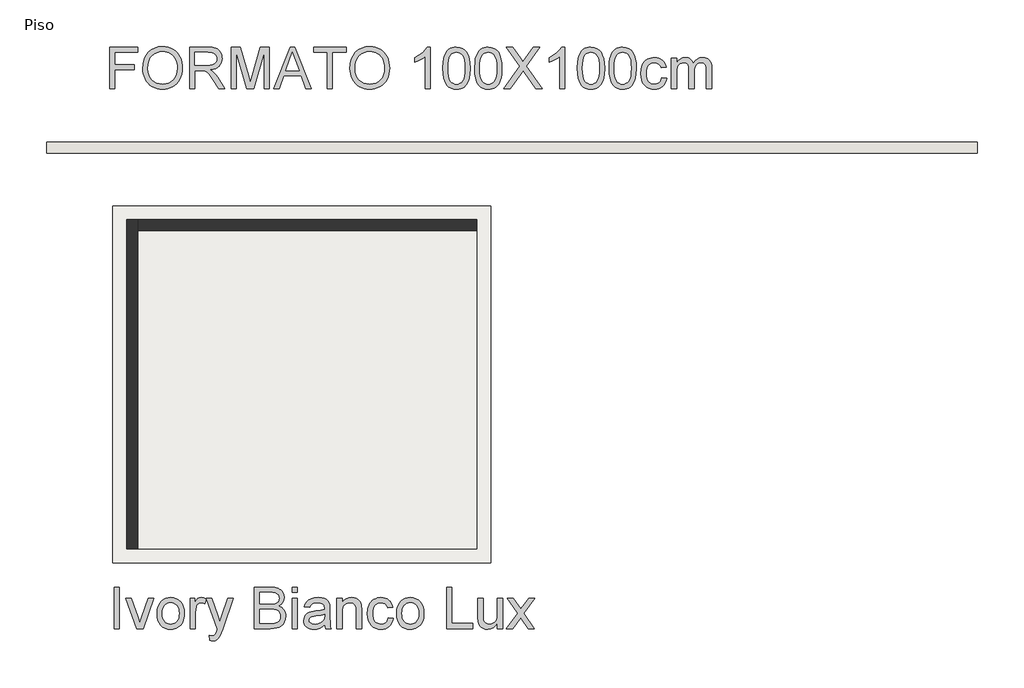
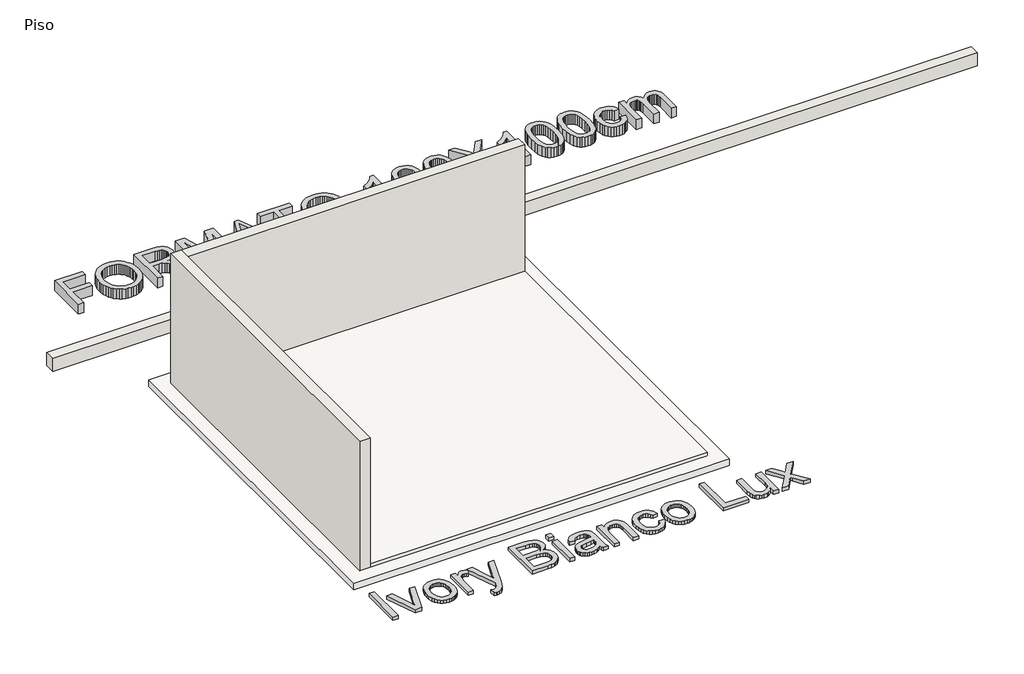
# One storey: 3 walls, 2 proxies, 2 slabs.
"""IFC4 building model written with IfcOpenShell, lengths in millimetres."""

from ifc_helpers import new_model, si_unit, frame, origin, origin_with_axes, place, context, project, spatial, polyline, outline, extrude, faceted_brep, element, save

model = new_model("IFC4")

# Units and contexts
model_context = context("Model", 3, world=origin())
ifc_project = project(units=[si_unit("LENGTHUNIT", "METRE", prefix="MILLI")], contexts=[model_context])

# Site, building, storey
site = spatial("IfcSite", under=ifc_project)
building = spatial("IfcBuilding", under=site)
storey = spatial("IfcBuildingStorey", under=building, Name="Piso", Elevation=0.0)

# Proxies
placement = place(None, origin())
element("IfcBuildingElementProxy", 1, Name="600mm Arial", ObjectType="600mm Arial", at=placement, inside=storey, context=model_context, shape_type="SweptSolid", body=[
    extrude(outline(polyline([(92602.0859381, 2702.6380465), (92602.0859381, 3305.3759074), (93007.0504384, 3305.3759074), (93007.0504384, 3230.0336748), (92677.4281707, 3230.0336748), (92677.4281707, 3051.0958724), (92959.961543, 3051.0958724), (92959.961543, 2975.7536397), (92677.4281707, 2975.7536397), (92677.4281707, 2702.6380465), (92602.0859381, 2702.6380465)])), origin_with_axes(), (0.0, 0.0, 1.0), 150.0),
    extrude(outline(polyline([(93082.392671, 2996.0607259), (93087.4142602, 3066.7584483), (93102.4790279, 3129.3443727), (93127.5869741, 3183.8184992), (93143.9071391, 3208.0136381), (93162.7380987, 3230.1808276), (93205.8262774, 3267.1989534), (93254.7453857, 3293.6404718), (93309.4954237, 3309.5053828), (93370.0763912, 3314.7936865), (93410.6261841, 3312.310483), (93449.134232, 3304.8608726), (93485.6005348, 3292.4448553), (93520.0250925, 3275.062431), (93551.4422148, 3253.2378317), (93578.8862117, 3227.495289), (93602.357083, 3197.8348032), (93621.8548287, 3164.2563741), (93637.1771138, 3127.5233569), (93648.1216032, 3088.3991067), (93654.6882968, 3046.8836235), (93656.8771947, 3002.9769074), (93654.5733337, 2958.4907771), (93647.6617507, 2916.4142739), (93636.1424457, 2876.7473978), (93620.0154187, 2839.4901487), (93599.6623474, 2805.6266111), (93575.4649091, 2776.1408692), (93547.423104, 2751.032923), (93515.5369321, 2730.3027726), (93481.0617906, 2714.0791766), (93445.2530769, 2702.4908937), (93408.110791, 2695.537924), (93369.6349328, 2693.2202674), (93328.3769671, 2695.7816458), (93289.3630815, 2703.465781), (93252.5932761, 2716.272673), (93218.0675508, 2734.2023217), (93186.6872166, 2756.56035), (93159.3535844, 2782.6523805), (93136.0666541, 2812.4784132), (93116.8264257, 2846.0384482), (93101.761658, 2881.9851177), (93091.0011097, 2918.9710538), (93084.5447807, 2956.9962565), (93082.392671, 2996.0607259)]), holes=[polyline([(93157.7349036, 2995.3249619), (93161.5010955, 2945.375784), (93172.7996713, 2901.0368065), (93191.6306309, 2862.3080295), (93217.9939744, 2829.1894529), (93250.0410947, 2802.665161), (93285.9233848, 2783.7192383), (93325.6408447, 2772.3516846), (93369.1934744, 2768.5625001), (93413.4910652, 2772.3884728), (93453.6775746, 2783.8663911), (93489.7530028, 2802.9962548), (93521.7173496, 2829.7780641), (93547.8875551, 2863.5956165), (93566.5805589, 2903.8327097), (93577.7963613, 2950.4893437), (93581.5349621, 3003.5655186), (93579.9346754, 3038.0452586), (93575.1338153, 3070.2625243), (93567.1323819, 3100.2173158), (93555.9303752, 3127.9096329), (93541.6519553, 3152.9761924), (93524.4212823, 3175.0537106), (93504.2383563, 3194.1421877), (93481.1031774, 3210.2416235), (93455.7331153, 3223.0209243), (93428.84554, 3232.1489963), (93400.4404514, 3237.6258395), (93370.5178496, 3239.4514539), (93328.4781346, 3235.9335823), (93289.4734461, 3225.3799676), (93253.503784, 3207.7906097), (93220.5691484, 3183.1655086), (93193.0791663, 3150.318245), (93173.4434648, 3108.0623993), (93161.6620439, 3056.3979716), (93157.7349036, 2995.3249619)])]), origin_with_axes(), (0.0, 0.0, 1.0), 150.0),
    extrude(outline(polyline([(93760.4727645, 2702.6380465), (93760.4727645, 3305.3759074), (94020.1974531, 3305.3759074), (94090.0030617, 3301.3108114), (94140.7891711, 3289.1155232), (94160.3880844, 3279.4218327), (94177.9084644, 3266.6011451), (94193.3503112, 3250.6534606), (94206.7136247, 3231.5787792), (94217.4971656, 3210.4025718), (94225.1996949, 3188.1503097), (94229.8212125, 3164.8219926), (94231.3617183, 3140.4176208), (94228.809537, 3109.4603509), (94221.152993, 3081.0414668), (94208.3920863, 3055.1609684), (94190.5268169, 3031.8188558), (94167.3272585, 3011.76009), (94138.563485, 2995.7296321), (94104.2354964, 2983.727482), (94064.3432925, 2975.7536397), (94089.1753272, 2959.5300438), (94107.1647568, 2943.527177), (94138.0300562, 2906.9229184), (94168.233168, 2865.9776524), (94268.738529, 2702.6380465), (94181.1826142, 2702.6380465), (94102.7501728, 2827.5707721), (94046.0963456, 2910.2706446), (94025.0351013, 2934.3853094), (94006.2915137, 2949.3397125), (93970.4598074, 2963.6871103), (93926.7554263, 2966.3358607), (93835.8149971, 2966.3358607), (93835.8149971, 2702.6380465), (93760.4727645, 2702.6380465)]), holes=[polyline([(93835.8149971, 3041.6780933), (94004.4521037, 3041.6780933), (94052.8837684, 3044.3452377), (94090.4629142, 3052.3466711), (94118.7530396, 3066.2158224), (94139.3176431, 3086.4861203), (94151.8440251, 3111.0054553), (94156.0194857, 3137.6217176), (94154.0283244, 3156.8895371), (94148.0548405, 3174.3731289), (94138.099034, 3190.0724931), (94124.1609049, 3203.9876296), (94105.9185565, 3215.3827744), (94083.050092, 3223.5221635), (94055.5555114, 3228.405797), (94023.4348147, 3230.0336748), (93835.8149971, 3230.0336748), (93835.8149971, 3041.6780933)])]), origin_with_axes(), (0.0, 0.0, 1.0), 150.0),
    extrude(outline(polyline([(94363.2106254, 2702.6380465), (94363.2106254, 3305.3759074), (94492.8522405, 3305.3759074), (94616.1662853, 2880.5457794), (94641.0351082, 2791.8126422), (94667.9640702, 2887.9034193), (94789.2179758, 3305.3759074), (94918.8595909, 3305.3759074), (94918.8595909, 2702.6380465), (94843.5173583, 2702.6380465), (94843.5173583, 3230.0336748), (94692.0971291, 2702.6380465), (94589.9730872, 2702.6380465), (94438.552858, 3230.0336748), (94438.552858, 2702.6380465), (94363.2106254, 2702.6380465)])), origin_with_axes(), (0.0, 0.0, 1.0), 150.0),
    extrude(outline(polyline([(94980.5166133, 2702.6380465), (95221.1114382, 3305.3759074), (95285.2700581, 3305.3759074), (95525.864883, 2702.6380465), (95446.2552192, 2702.6380465), (95377.2405569, 2890.9936281), (95128.9937866, 2890.9936281), (95060.1262771, 2702.6380465), (94980.5166133, 2702.6380465)]), holes=[polyline([(95156.6585126, 2966.3358607), (95349.7229837, 2966.3358607), (95295.4236012, 3114.5187283), (95253.1907481, 3230.0336748), (95215.6667846, 3127.4681746), (95156.6585126, 2966.3358607)])]), origin_with_axes(), (0.0, 0.0, 1.0), 150.0),
    extrude(outline(polyline([(95757.0419287, 2702.6380465), (95757.0419287, 3230.0336748), (95559.2685681, 3230.0336748), (95559.2685681, 3305.3759074), (96030.1575219, 3305.3759074), (96030.1575219, 3230.0336748), (95832.3841613, 3230.0336748), (95832.3841613, 2702.6380465), (95757.0419287, 2702.6380465)])), origin_with_axes(), (0.0, 0.0, 1.0), 150.0),
    extrude(outline(polyline([(96086.6641964, 2996.0607259), (96091.6857856, 3066.7584483), (96106.7505533, 3129.3443727), (96131.8584995, 3183.8184992), (96148.1786645, 3208.0136381), (96167.0096242, 3230.1808276), (96210.0978028, 3267.1989534), (96259.0169111, 3293.6404718), (96313.7669491, 3309.5053828), (96374.3479166, 3314.7936865), (96414.8977096, 3312.310483), (96453.4057574, 3304.8608726), (96489.8720602, 3292.4448553), (96524.2966179, 3275.062431), (96555.7137403, 3253.2378317), (96583.1577371, 3227.495289), (96606.6286084, 3197.8348032), (96626.1263541, 3164.2563741), (96641.4486392, 3127.5233569), (96652.3931286, 3088.3991067), (96658.9598222, 3046.8836235), (96661.1487201, 3002.9769074), (96658.8448591, 2958.4907771), (96651.9332761, 2916.4142739), (96640.4139711, 2876.7473978), (96624.2869442, 2839.4901487), (96603.9338728, 2805.6266111), (96579.7364345, 2776.1408692), (96551.6946295, 2751.032923), (96519.8084575, 2730.3027726), (96485.3333161, 2714.0791766), (96449.5246024, 2702.4908937), (96412.3823164, 2695.537924), (96373.9064582, 2693.2202674), (96332.6484925, 2695.7816458), (96293.6346069, 2703.465781), (96256.8648015, 2716.272673), (96222.3390762, 2734.2023217), (96190.958742, 2756.56035), (96163.6251098, 2782.6523805), (96140.3381795, 2812.4784132), (96121.0979512, 2846.0384482), (96106.0331835, 2881.9851177), (96095.2726351, 2918.9710538), (96088.8163061, 2956.9962565), (96086.6641964, 2996.0607259)]), holes=[polyline([(96162.006429, 2995.3249619), (96165.7726209, 2945.375784), (96177.0711967, 2901.0368065), (96195.9021564, 2862.3080295), (96222.2654998, 2829.1894529), (96254.3126201, 2802.665161), (96290.1949102, 2783.7192383), (96329.9123701, 2772.3516846), (96373.4649998, 2768.5625001), (96417.7625906, 2772.3884728), (96457.9491, 2783.8663911), (96494.0245282, 2802.9962548), (96525.988875, 2829.7780641), (96552.1590805, 2863.5956165), (96570.8520844, 2903.8327097), (96582.0678867, 2950.4893437), (96585.8064875, 3003.5655186), (96584.2062008, 3038.0452586), (96579.4053407, 3070.2625243), (96571.4039074, 3100.2173158), (96560.2019006, 3127.9096329), (96545.9234807, 3152.9761924), (96528.6928077, 3175.0537106), (96508.5098818, 3194.1421877), (96485.3747028, 3210.2416235), (96460.0046407, 3223.0209243), (96433.1170654, 3232.1489963), (96404.7119768, 3237.6258395), (96374.789375, 3239.4514539), (96332.74966, 3235.9335823), (96293.7449715, 3225.3799676), (96257.7753094, 3207.7906097), (96224.8406738, 3183.1655086), (96197.3506917, 3150.318245), (96177.7149902, 3108.0623993), (96165.9335693, 3056.3979716), (96162.006429, 2995.3249619)])]), origin_with_axes(), (0.0, 0.0, 1.0), 150.0),
    extrude(outline(polyline([(97254.4688019, 2702.6380465), (97179.1265693, 2702.6380465), (97179.1265693, 3172.349778), (97147.6726587, 3146.910738), (97107.7574622, 3121.5084862), (97065.855703, 3099.3068078), (97028.4421041, 3083.4694879), (97028.4421041, 3154.6914422), (97087.615923, 3186.8811168), (97138.880279, 3225.1776325), (97179.2921162, 3265.9021693), (97205.9083785, 3305.3759074), (97254.4688019, 3305.3759074), (97254.4688019, 2702.6380465)])), origin_with_axes(), (0.0, 0.0, 1.0), 150.0),
    extrude(outline(polyline([(97433.4066044, 2999.1509346), (97438.9432284, 3095.6279879), (97445.8640084, 3136.5410643), (97455.5531005, 3172.5705072), (97467.9691178, 3204.0106222), (97483.0706737, 3231.1557149), (97500.8577682, 3254.0057853), (97521.3304012, 3272.5608335), (97544.5575507, 3286.9174283), (97570.6081945, 3297.1721389), (97599.4823325, 3303.3249653), (97631.179965, 3305.3759074), (97677.6066727, 3300.5198651), (97719.1773382, 3285.9517381), (97753.9421867, 3262.2417435), (97779.9514438, 3229.9600984), (97799.5963424, 3189.3827143), (97815.2681153, 3140.7855028), (97825.532023, 3079.0732981), (97828.9533256, 2999.1509346), (97823.4718838, 2903.2257044), (97816.6200817, 2862.4505838), (97807.0275587, 2826.4671261), (97794.7081103, 2795.0132155), (97779.6755323, 2767.8267361), (97761.9298246, 2744.9076878), (97741.4709871, 2726.2560706), (97718.2162465, 2711.8029067), (97692.0828293, 2701.4792182), (97663.0707354, 2695.2850051), (97631.179965, 2693.2202674), (97589.6828759, 2696.8071169), (97552.8946764, 2707.5676653), (97520.8153664, 2725.5019125), (97493.444946, 2750.6098587), (97467.1781715, 2795.9972999), (97448.4161898, 2852.5499596), (97437.1590007, 2920.2678378), (97433.4066044, 2999.1509346)]), holes=[polyline([(97508.748837, 2999.2980874), (97510.9561289, 2933.8012967), (97517.5780048, 2880.7849027), (97528.6144647, 2840.2489053), (97544.0655085, 2812.1933047), (97562.7539139, 2793.1048277), (97583.5024584, 2779.4702012), (97606.3111421, 2771.2894254), (97631.179965, 2768.5625001), (97656.0487878, 2771.2986224), (97678.8574715, 2779.5069894), (97699.6060161, 2793.1876011), (97718.2944214, 2812.3404575), (97733.7454652, 2840.4420434), (97744.7819251, 2880.9688437), (97751.403801, 2933.9208584), (97753.611093, 2999.2980874), (97751.4773774, 3063.0612342), (97745.0762307, 3115.1441277), (97734.4076528, 3155.5467678), (97719.4716438, 3184.2691546), (97701.0959381, 3204.2911322), (97680.1082703, 3218.5925448), (97656.5086403, 3227.1733923), (97630.2970482, 3230.0336748), (97605.556984, 3227.5136831), (97583.1345764, 3219.9537081), (97563.0298254, 3207.3537498), (97545.2427309, 3189.7138081), (97529.2766523, 3158.4438385), (97517.8723104, 3116.2845619), (97511.0297053, 3063.2359782), (97508.748837, 2999.2980874)])]), origin_with_axes(), (0.0, 0.0, 1.0), 150.0),
    extrude(outline(polyline([(97894.8777791, 2999.1509346), (97900.4144031, 3095.6279879), (97907.3351832, 3136.5410643), (97917.0242752, 3172.5705072), (97929.4402925, 3204.0106222), (97944.5418484, 3231.1557149), (97962.3289429, 3254.0057853), (97982.8015759, 3272.5608335), (98006.0287254, 3286.9174283), (98032.0793692, 3297.1721389), (98060.9535073, 3303.3249653), (98092.6511397, 3305.3759074), (98139.0778475, 3300.5198651), (98180.648513, 3285.9517381), (98215.4133615, 3262.2417435), (98241.4226186, 3229.9600984), (98261.0675171, 3189.3827143), (98276.7392901, 3140.7855028), (98287.0031978, 3079.0732981), (98290.4245003, 2999.1509346), (98284.9430586, 2903.2257044), (98278.0912564, 2862.4505838), (98268.4987334, 2826.4671261), (98256.1792851, 2795.0132155), (98241.1467071, 2767.8267361), (98223.4009993, 2744.9076878), (98202.9421619, 2726.2560706), (98179.6874212, 2711.8029067), (98153.554004, 2701.4792182), (98124.5419102, 2695.2850051), (98092.6511397, 2693.2202674), (98051.1540507, 2696.8071169), (98014.3658511, 2707.5676653), (97982.2865412, 2725.5019125), (97954.9161207, 2750.6098587), (97928.6493463, 2795.9972999), (97909.8873645, 2852.5499596), (97898.6301755, 2920.2678378), (97894.8777791, 2999.1509346)]), holes=[polyline([(97970.2200117, 2999.2980874), (97972.4273037, 2933.8012967), (97979.0491796, 2880.7849027), (97990.0856395, 2840.2489053), (98005.5366833, 2812.1933047), (98024.2250886, 2793.1048277), (98044.9736331, 2779.4702012), (98067.7823168, 2771.2894254), (98092.6511397, 2768.5625001), (98117.5199626, 2771.2986224), (98140.3286463, 2779.5069894), (98161.0771908, 2793.1876011), (98179.7655962, 2812.3404575), (98195.21664, 2840.4420434), (98206.2530998, 2880.9688437), (98212.8749757, 2933.9208584), (98215.0822677, 2999.2980874), (98212.9485521, 3063.0612342), (98206.5474054, 3115.1441277), (98195.8788276, 3155.5467678), (98180.9428186, 3184.2691546), (98162.5671129, 3204.2911322), (98141.5794451, 3218.5925448), (98117.9798151, 3227.1733923), (98091.7682229, 3230.0336748), (98067.0281587, 3227.5136831), (98044.6057511, 3219.9537081), (98024.5010001, 3207.3537498), (98006.7139056, 3189.7138081), (97990.747827, 3158.4438385), (97979.3434852, 3116.2845619), (97972.5008801, 3063.2359782), (97970.2200117, 2999.2980874)])]), origin_with_axes(), (0.0, 0.0, 1.0), 150.0),
    extrude(outline(polyline([(98318.6778375, 2702.6380465), (98551.0321057, 3031.0830918), (98356.3489539, 3305.3759074), (98446.7007719, 3305.3759074), (98556.3296064, 3151.0126222), (98582.4860163, 3111.9067662), (98593.2649587, 3090.8271278), (98636.5278814, 3152.0426918), (98744.9794936, 3305.3759074), (98836.6556868, 3305.3759074), (98641.9725349, 3030.200175), (98874.3268031, 2702.6380465), (98783.974985, 2702.6380465), (98629.1702415, 2921.0127989), (98596.9437787, 2966.3358607), (98561.4799544, 2916.5982149), (98410.3540307, 2702.6380465), (98318.6778375, 2702.6380465)])), origin_with_axes(), (0.0, 0.0, 1.0), 150.0),
    extrude(outline(polyline([(99203.9490707, 2702.6380465), (99128.6068381, 2702.6380465), (99128.6068381, 3172.349778), (99097.1529275, 3146.910738), (99057.2377311, 3121.5084862), (99015.3359718, 3099.3068078), (98977.9223729, 3083.4694879), (98977.9223729, 3154.6914422), (99037.0961918, 3186.8811168), (99088.3605479, 3225.1776325), (99128.772385, 3265.9021693), (99155.3886474, 3305.3759074), (99203.9490707, 3305.3759074), (99203.9490707, 2702.6380465)])), origin_with_axes(), (0.0, 0.0, 1.0), 150.0),
    extrude(outline(polyline([(99382.8868732, 2999.1509346), (99388.4234972, 3095.6279879), (99395.3442773, 3136.5410643), (99405.0333693, 3172.5705072), (99417.4493866, 3204.0106222), (99432.5509425, 3231.1557149), (99450.338037, 3254.0057853), (99470.81067, 3272.5608335), (99494.0378195, 3286.9174283), (99520.0884633, 3297.1721389), (99548.9626014, 3303.3249653), (99580.6602338, 3305.3759074), (99627.0869416, 3300.5198651), (99668.657607, 3285.9517381), (99703.4224556, 3262.2417435), (99729.4317126, 3229.9600984), (99749.0766112, 3189.3827143), (99764.7483842, 3140.7855028), (99775.0122919, 3079.0732981), (99778.4335944, 2999.1509346), (99772.9521527, 2903.2257044), (99766.1003505, 2862.4505838), (99756.5078275, 2826.4671261), (99744.1883792, 2795.0132155), (99729.1558012, 2767.8267361), (99711.4100934, 2744.9076878), (99690.951256, 2726.2560706), (99667.6965153, 2711.8029067), (99641.5630981, 2701.4792182), (99612.5510043, 2695.2850051), (99580.6602338, 2693.2202674), (99539.1631447, 2696.8071169), (99502.3749452, 2707.5676653), (99470.2956352, 2725.5019125), (99442.9252148, 2750.6098587), (99416.6584403, 2795.9972999), (99397.8964586, 2852.5499596), (99386.6392695, 2920.2678378), (99382.8868732, 2999.1509346)]), holes=[polyline([(99458.2291058, 2999.2980874), (99460.4363978, 2933.8012967), (99467.0582737, 2880.7849027), (99478.0947335, 2840.2489053), (99493.5457773, 2812.1933047), (99512.2341827, 2793.1048277), (99532.9827272, 2779.4702012), (99555.7914109, 2771.2894254), (99580.6602338, 2768.5625001), (99605.5290567, 2771.2986224), (99628.3377404, 2779.5069894), (99649.0862849, 2793.1876011), (99667.7746903, 2812.3404575), (99683.2257341, 2840.4420434), (99694.2621939, 2880.9688437), (99700.8840698, 2933.9208584), (99703.0913618, 2999.2980874), (99700.9576462, 3063.0612342), (99694.5564995, 3115.1441277), (99683.8879216, 3155.5467678), (99668.9519126, 3184.2691546), (99650.576207, 3204.2911322), (99629.5885392, 3218.5925448), (99605.9889092, 3227.1733923), (99579.777317, 3230.0336748), (99555.0372528, 3227.5136831), (99532.6148452, 3219.9537081), (99512.5100942, 3207.3537498), (99494.7229997, 3189.7138081), (99478.7569211, 3158.4438385), (99467.3525793, 3116.2845619), (99460.5099742, 3063.2359782), (99458.2291058, 2999.2980874)])]), origin_with_axes(), (0.0, 0.0, 1.0), 150.0),
    extrude(outline(polyline([(99844.3580479, 2999.1509346), (99849.894672, 3095.6279879), (99856.815452, 3136.5410643), (99866.5045441, 3172.5705072), (99878.9205614, 3204.0106222), (99894.0221173, 3231.1557149), (99911.8092118, 3254.0057853), (99932.2818448, 3272.5608335), (99955.5089943, 3286.9174283), (99981.559638, 3297.1721389), (100010.4337761, 3303.3249653), (100042.1314085, 3305.3759074), (100088.5581163, 3300.5198651), (100130.1287818, 3285.9517381), (100164.8936303, 3262.2417435), (100190.9028874, 3229.9600984), (100210.5477859, 3189.3827143), (100226.2195589, 3140.7855028), (100236.4834666, 3079.0732981), (100239.9047692, 2999.1509346), (100234.4233274, 2903.2257044), (100227.5715253, 2862.4505838), (100217.9790022, 2826.4671261), (100205.6595539, 2795.0132155), (100190.6269759, 2767.8267361), (100172.8812682, 2744.9076878), (100152.4224307, 2726.2560706), (100129.1676901, 2711.8029067), (100103.0342729, 2701.4792182), (100074.022179, 2695.2850051), (100042.1314085, 2693.2202674), (100000.6343195, 2696.8071169), (99963.84612, 2707.5676653), (99931.76681, 2725.5019125), (99904.3963896, 2750.6098587), (99878.1296151, 2795.9972999), (99859.3676333, 2852.5499596), (99848.1104443, 2920.2678378), (99844.3580479, 2999.1509346)]), holes=[polyline([(99919.7002806, 2999.2980874), (99921.9075725, 2933.8012967), (99928.5294484, 2880.7849027), (99939.5659083, 2840.2489053), (99955.0169521, 2812.1933047), (99973.7053574, 2793.1048277), (99994.453902, 2779.4702012), (100017.2625857, 2771.2894254), (100042.1314085, 2768.5625001), (100067.0002314, 2771.2986224), (100089.8089151, 2779.5069894), (100110.5574597, 2793.1876011), (100129.245865, 2812.3404575), (100144.6969088, 2840.4420434), (100155.7333687, 2880.9688437), (100162.3552446, 2933.9208584), (100164.5625365, 2999.2980874), (100162.428821, 3063.0612342), (100156.0276743, 3115.1441277), (100145.3590964, 3155.5467678), (100130.4230874, 3184.2691546), (100112.0473817, 3204.2911322), (100091.0597139, 3218.5925448), (100067.4600839, 3227.1733923), (100041.2484918, 3230.0336748), (100016.5084276, 3227.5136831), (99994.08602, 3219.9537081), (99973.9812689, 3207.3537498), (99956.1941745, 3189.7138081), (99940.2280959, 3158.4438385), (99928.823754, 3116.2845619), (99921.9811489, 3063.2359782), (99919.7002806, 2999.2980874)])]), origin_with_axes(), (0.0, 0.0, 1.0), 150.0),
    extrude(outline(polyline([(100607.1981531, 2862.7402908), (100682.5403858, 2853.3225117), (100674.3458143, 2817.7713154), (100661.5343238, 2786.3128063), (100644.1059143, 2758.9469844), (100622.0605857, 2735.6738497), (100596.3272402, 2717.1004075), (100567.8347797, 2703.833663), (100536.5832042, 2695.8736163), (100502.5725137, 2693.2202674), (100460.316668, 2696.92208), (100422.4294211, 2708.0275178), (100388.9107728, 2726.5365806), (100359.7607232, 2752.4492687), (100336.1656917, 2785.2781382), (100319.3120978, 2824.5357456), (100309.1999415, 2870.2220909), (100305.8292227, 2922.337174), (100311.5865759, 2989.3836677), (100318.7832674, 3019.5545898), (100328.8586356, 3047.4906288), (100341.8816582, 3072.6307646), (100357.9213132, 3094.4139773), (100376.9776006, 3112.8402667), (100399.0505203, 3127.9096329), (100423.1421924, 3139.6266745), (100448.2547371, 3147.9959899), (100474.3881544, 3153.0175791), (100501.5424441, 3154.6914422), (100534.9691219, 3152.3921797), (100565.2044234, 3145.4943923), (100592.2483486, 3133.99808), (100616.1008974, 3117.9032427), (100636.3573998, 3097.5777624), (100652.6131854, 3073.3895213), (100664.8682544, 3045.3385191), (100673.1226067, 3013.4247561), (100597.7803741, 3004.006977), (100584.1135579, 3036.8772332), (100562.8315845, 3060.440075), (100535.1116762, 3074.6219259), (100502.1310553, 3079.3492096), (100476.531067, 3077.022356), (100453.4418733, 3070.0417951), (100432.8634742, 3058.407527), (100414.7958697, 3042.1195517), (100400.0851884, 3020.8007901), (100389.5775589, 2994.0741631), (100383.2729812, 2961.9396708), (100381.1714553, 2924.3973132), (100383.226996, 2886.289337), (100389.3936179, 2853.7823642), (100399.6713211, 2826.8763948), (100414.0601057, 2805.5714288), (100431.7690252, 2789.3800225), (100452.0071335, 2777.8147322), (100474.7744305, 2770.8755581), (100500.0709161, 2768.5625001), (100539.0848017, 2774.3382474), (100555.9567897, 2781.5579315), (100571.0721412, 2791.6654894), (100584.0077919, 2804.7712854), (100594.3406774, 2820.9856844), (100602.0707978, 2840.3086862), (100607.1981531, 2862.7402908)])), origin_with_axes(), (0.0, 0.0, 1.0), 150.0),
    extrude(outline(polyline([(100748.4648393, 2702.6380465), (100748.4648393, 3145.2736631), (100823.8070719, 3145.2736631), (100823.8070719, 3072.4330281), (100846.4686028, 3105.8918955), (100875.6048568, 3132.1034877), (100910.2225526, 3149.0444536), (100949.3284087, 3154.6914422), (100991.2301679, 3148.934089), (101009.0632476, 3141.7373974), (101024.8177941, 3131.6620293), (101049.9073461, 3104.0156974), (101066.3148831, 3067.1355273), (101093.7772741, 3105.4412401), (101125.102426, 3132.8024635), (101160.2903388, 3149.2191975), (101199.3410126, 3154.6914422), (101229.5027377, 3152.4151724), (101255.9764457, 3145.5863628), (101278.7621368, 3134.2050136), (101297.8598109, 3118.2711247), (101312.9567683, 3097.6007551), (101323.7403092, 3072.0099638), (101330.2104338, 3041.4987508), (101332.367142, 3006.0671161), (101332.367142, 2702.6380465), (101257.0249094, 2702.6380465), (101257.0249094, 2973.6935006), (101255.2774699, 3011.2726464), (101250.0351515, 3036.6013217), (101240.2127022, 3053.9469578), (101224.7248702, 3067.5769857), (101204.8040602, 3076.4061536), (101181.6826768, 3079.3492096), (101160.3317255, 3077.4638144), (101140.8661694, 3071.8076287), (101123.2860086, 3062.3806526), (101107.591243, 3049.182886), (101094.6831835, 3031.8280529), (101085.463141, 3009.9298771), (101079.9311155, 2983.4883587), (101078.087107, 2952.5034976), (101078.087107, 2702.6380465), (101002.7448744, 2702.6380465), (101002.7448744, 2982.0812101), (100998.3854727, 3024.6819451), (100992.9362207, 3041.4021818), (100985.3072678, 3055.0689979), (100975.1951114, 3065.6915905), (100962.296249, 3073.2791567), (100946.6106804, 3077.8316964), (100928.1384057, 3079.3492096), (100899.1125163, 3075.3025076), (100872.3674953, 3063.1624018), (100850.2945756, 3043.2231977), (100835.2849902, 3015.7792008), (100826.6765515, 2977.7034143), (100823.8070719, 2925.8688412), (100823.8070719, 2702.6380465), (100748.4648393, 2702.6380465)])), origin_with_axes(), (0.0, 0.0, 1.0), 150.0),
])
element("IfcBuildingElementProxy", 2, Name="600mm Arial", ObjectType="600mm Arial", at=placement, inside=storey, context=model_context, shape_type="SweptSolid", body=[
    extrude(outline(polyline([(92667.6710309, -5134.2532893), (92667.6710309, -4531.5154284), (92743.0132636, -4531.5154284), (92743.0132636, -5134.2532893), (92667.6710309, -5134.2532893)])), origin_with_axes(), (0.0, 0.0, 1.0), 50.0),
    extrude(outline(polyline([(92992.8787147, -5134.2532893), (92837.1910543, -4691.6176727), (92916.9478709, -4691.6176727), (93011.2728144, -4956.7870149), (93039.6733045, -5045.9616105), (93067.4851833, -4961.79021), (93162.3987381, -4691.6176727), (93242.1555546, -4691.6176727), (93088.3808806, -5134.2532893), (92992.8787147, -5134.2532893)])), origin_with_axes(), (0.0, 0.0, 1.0), 50.0),
    extrude(outline(polyline([(93289.24445, -4912.935481), (93293.3187431, -4855.6102691), (93305.5416224, -4806.2129142), (93325.9130879, -4764.7434163), (93354.4331395, -4731.2017754), (93383.1463293, -4709.7634521), (93414.8393632, -4694.4503641), (93449.5122412, -4685.2625113), (93487.1649634, -4682.1998937), (93528.7310303, -4685.9292974), (93566.3147747, -4697.1175086), (93599.9161964, -4715.7645272), (93629.5352955, -4741.8703533), (93653.7097411, -4774.55207), (93670.9772023, -4812.9267606), (93681.337679, -4856.9944251), (93684.7911712, -4906.7550635), (93683.2644609, -4947.0841272), (93678.6843301, -4982.8698483), (93671.0507787, -5014.1122268), (93660.3638067, -5040.8112626), (93646.7567714, -5063.8728651), (93630.36303, -5084.2029439), (93611.1825825, -5101.8014988), (93589.2154289, -5116.66853), (93565.3168948, -5128.4821405), (93540.3423058, -5136.9204338), (93514.291662, -5141.9834098), (93487.1649634, -5143.6710684), (93444.9918912, -5139.9554603), (93407.058659, -5128.8086358), (93373.3652667, -5110.230595), (93343.9117145, -5084.221338), (93319.9947863, -5051.222323), (93302.9112661, -5011.6750085), (93292.661154, -4965.5793945), (93289.24445, -4912.935481)]), holes=[polyline([(93364.5866826, -4912.7883282), (93366.7663834, -4949.3328059), (93373.3054859, -4980.975256), (93384.20399, -5007.7156786), (93399.4618958, -5029.5540735), (93418.0215424, -5046.518032), (93438.8252692, -5058.6351452), (93461.8730762, -5065.9054132), (93487.1649634, -5068.3288358), (93512.3280919, -5065.8916176), (93535.2839284, -5058.5799629), (93556.0324729, -5046.3938718), (93574.5737255, -5029.3333443), (93589.8316312, -5007.2788187), (93600.7301353, -4980.1107334), (93607.2692378, -4947.8290883), (93609.4489386, -4910.4338835), (93607.2554422, -4875.0482341), (93600.674953, -4844.2335184), (93589.707471, -4817.9897366), (93574.3529963, -4796.3168886), (93555.7427658, -4779.3529301), (93535.0080169, -4767.2358168), (93512.1487494, -4759.9655489), (93487.1649634, -4757.5421263), (93461.8730762, -4759.9563519), (93438.8252692, -4767.1990286), (93418.0215424, -4779.2701566), (93399.4618958, -4796.1697358), (93384.20399, -4817.9437514), (93373.3054859, -4844.6381886), (93366.7663834, -4876.2530476), (93364.5866826, -4912.7883282)])]), origin_with_axes(), (0.0, 0.0, 1.0), 50.0),
    extrude(outline(polyline([(94052.0845552, -5303.7733127), (94042.6667761, -5231.2269833), (94080.9265036, -5237.8488592), (94101.0496488, -5235.7703259), (94116.6846336, -5229.5347261), (94128.8615276, -5219.5835181), (94138.6104005, -5206.3581604), (94159.2117922, -5150.8815555), (94165.0979041, -5132.6346086), (94004.9956598, -4691.6176727), (94084.4581708, -4691.6176727), (94169.3653353, -4937.3628455), (94198.9430477, -5035.6609146), (94228.5207601, -4948.8407638), (94315.7823693, -4691.6176727), (94394.6562691, -4691.6176727), (94240.5872895, -5144.8482908), (94200.5617285, -5243.1463599), (94180.0707013, -5274.5266941), (94156.8573474, -5296.26852), (94129.8915972, -5308.9604488), (94098.143381, -5313.1910918), (94076.3279787, -5310.836647), (94052.0845552, -5303.7733127)])), origin_with_axes(), (0.0, 0.0, 1.0), 50.0),
    extrude(outline(polyline([(93769.5511829, -5134.2532893), (93769.5511829, -4691.6176727), (93835.4756364, -4691.6176727), (93835.4756364, -4757.1006679), (93859.8294245, -4719.135246), (93882.2702262, -4696.7680207), (93904.7846043, -4685.8419254), (93929.3591216, -4682.1998937), (93966.8830851, -4688.0124292), (94004.9956598, -4705.4500358), (93979.8325313, -4772.9931701), (93953.3450277, -4761.4048872), (93926.857524, -4757.5421263), (93904.36154, -4761.2577344), (93884.256789, -4772.4045589), (93868.0147989, -4790.136471), (93857.1070978, -4813.6073423), (93847.9468361, -4855.6930426), (93844.8934155, -4901.6047156), (93844.8934155, -5134.2532893), (93769.5511829, -5134.2532893)])), origin_with_axes(), (0.0, 0.0, 1.0), 50.0),
    extrude(outline(polyline([(94701.9113115, -5134.2532893), (94701.9113115, -4531.5154284), (94931.9111349, -4531.5154284), (94995.1684439, -4535.9484065), (95044.5566018, -4549.2473406), (95064.6337617, -4559.3043146), (95082.4116591, -4571.7433246), (95097.890294, -4586.5643705), (95111.0696665, -4603.7674523), (95129.1142784, -4641.4385686), (95135.129149, -4680.8755185), (95130.0707716, -4717.1670773), (95114.8956393, -4751.2881324), (95089.4933875, -4781.1417563), (95053.7536517, -4804.6310217), (95076.4933575, -4814.3247122), (95096.4463572, -4826.9246706), (95113.6126508, -4842.4308967), (95127.9922383, -4860.8433905), (95139.3551934, -4881.6011321), (95147.4715899, -4904.1431014), (95152.3414278, -4928.4692983), (95153.9647072, -4954.5797229), (95149.5317291, -4996.6102408), (95136.232795, -5035.5873382), (95116.3855613, -5068.733506), (95092.3076848, -5093.2712351), (95062.8219428, -5111.0399354), (95026.7511132, -5123.8790171), (94982.9179735, -5131.6597213), (94930.1453013, -5134.2532893), (94701.9113115, -5134.2532893)]), holes=[polyline([(94777.2535441, -4776.3776844), (94914.8414103, -4776.3776844), (94962.9603753, -4774.7590036), (94995.186838, -4769.9029613), (95023.3114166, -4758.7377428), (95043.5265322, -4742.0175061), (95055.7218203, -4719.9997687), (95059.7869164, -4692.9420479), (95055.9977318, -4666.6752735), (95044.6301782, -4643.7930134), (95026.1992902, -4625.9323425), (95001.2201028, -4614.7303357), (94962.8867989, -4608.8258297), (94904.3935616, -4606.857661), (94777.2535441, -4606.857661), (94777.2535441, -4776.3776844)]), polyline([(94777.2535441, -5058.9110567), (94931.7639821, -5058.9110567), (94987.6820453, -5055.9680008), (95013.6361201, -5049.4380953), (95034.9916699, -5039.5604638), (95052.3557001, -5025.4154011), (95066.3352159, -5006.0832022), (95075.5506599, -4982.4283899), (95078.6224745, -4955.3154869), (95075.017231, -4923.8247881), (95064.2015003, -4896.7486732), (95045.3107599, -4875.5770644), (95017.4804869, -4861.7998837), (94978.0619312, -4854.2399087), (94924.4063422, -4851.719917), (94777.2535441, -4851.719917), (94777.2535441, -5058.9110567)])]), origin_with_axes(), (0.0, 0.0, 1.0), 50.0),
    extrude(outline(polyline([(95248.1424979, -4606.857661), (95248.1424979, -4531.5154284), (95323.4847305, -4531.5154284), (95323.4847305, -4606.857661), (95248.1424979, -4606.857661)])), origin_with_axes(), (0.0, 0.0, 1.0), 50.0),
    extrude(outline(polyline([(95248.1424979, -5134.2532893), (95248.1424979, -4691.6176727), (95323.4847305, -4691.6176727), (95323.4847305, -5134.2532893), (95248.1424979, -5134.2532893)])), origin_with_axes(), (0.0, 0.0, 1.0), 50.0),
    extrude(outline(polyline([(95719.0314517, -5077.7466149), (95683.0341985, -5108.6119143), (95645.9700875, -5128.8086358), (95606.9929901, -5139.9554603), (95565.2567778, -5143.6710684), (95531.7105383, -5141.4361853), (95502.2937743, -5134.7315359), (95477.0064856, -5123.5571203), (95455.8486724, -5107.9129385), (95439.1422313, -5088.7922718), (95427.2090591, -5067.1884016), (95420.0491557, -5043.101328), (95417.6625213, -5016.5310509), (95421.2677648, -4985.2978695), (95432.0834955, -4956.9341677), (95448.766944, -4932.653956), (95469.975341, -4913.671245), (95494.8993462, -4899.3238472), (95522.7296191, -4888.949575), (95587.9183087, -4877.6188095), (95664.9527985, -4865.6994329), (95718.5899933, -4851.719917), (95719.0314517, -4834.9444981), (95713.8443156, -4801.3200837), (95707.3603954, -4788.8672782), (95698.2829072, -4779.3207404), (95682.5927401, -4769.7925967), (95663.4812705, -4762.9867798), (95614.9944235, -4757.5421263), (95570.1128201, -4761.1657639), (95538.7692741, -4772.0366769), (95517.3953302, -4792.1414279), (95502.422533, -4823.4665798), (95427.0803004, -4814.0488007), (95440.1585053, -4772.8460173), (95459.6746451, -4740.4724017), (95487.4497358, -4715.7139434), (95525.3047931, -4697.3566319), (95571.6027422, -4685.9890782), (95624.7065082, -4682.1998937), (95675.6397704, -4685.5476198), (95716.0148194, -4695.5907983), (95746.4570545, -4710.6923542), (95767.5918751, -4729.2152126), (95781.6081791, -4752.1158668), (95790.6948644, -4780.35081), (95794.3736844, -4846.2752635), (95794.3736844, -4940.0115959), (95798.1996571, -5070.9040098), (95803.8650398, -5103.2592312), (95813.2092425, -5134.2532893), (95737.8670099, -5134.2532893), (95725.8004805, -5108.0600913), (95719.0314517, -5077.7466149)]), holes=[polyline([(95719.0314517, -4927.0621497), (95668.4108892, -4939.6069257), (95597.4832405, -4950.1651389), (95532.662433, -4962.3788212), (95515.7950435, -4970.7297425), (95503.3054498, -4982.2444489), (95495.5799279, -4996.0400237), (95493.0047539, -5011.2335501), (95498.6149543, -5033.6375637), (95515.4455556, -5051.9948752), (95543.1286757, -5064.2453457), (95581.2964327, -5068.3288358), (95621.7634522, -5063.8222814), (95657.5215821, -5050.302618), (95686.5106834, -5030.381808), (95706.6706167, -5006.6718134), (95715.6101492, -4982.2444489), (95718.5899933, -4948.3993054), (95719.0314517, -4927.0621497)])]), origin_with_axes(), (0.0, 0.0, 1.0), 50.0),
    extrude(outline(polyline([(95897.9692542, -5134.2532893), (95897.9692542, -4691.6176727), (95973.3114868, -4691.6176727), (95973.3114868, -4753.4218479), (95999.4862908, -4722.2622429), (96030.9218073, -4700.0053822), (96067.6180363, -4686.6512658), (96109.5749778, -4682.1998937), (96146.7126652, -4685.7867431), (96180.7233557, -4696.5472915), (96209.0870575, -4713.1387695), (96229.2837791, -4734.2184078), (96242.9873834, -4759.7310241), (96251.8717336, -4789.6214363), (96255.8448591, -4862.4620713), (96255.8448591, -5134.2532893), (96180.5026265, -5134.2532893), (96180.5026265, -4872.6156144), (96178.3321227, -4833.6569111), (96171.8206114, -4805.9553968), (96159.8092643, -4786.1081632), (96141.139253, -4770.7123017), (96117.2085292, -4760.8346701), (96089.4150445, -4757.5421263), (96066.5373829, -4759.3907333), (96045.2875992, -4764.9365544), (96025.6656932, -4774.1795895), (96007.6716652, -4787.1198387), (95992.6390871, -4805.2288299), (95981.9015314, -4829.9780911), (95975.458998, -4861.3676224), (95973.3114868, -4899.3974236), (95973.3114868, -5134.2532893), (95897.9692542, -5134.2532893)])), origin_with_axes(), (0.0, 0.0, 1.0), 50.0),
    extrude(outline(polyline([(96641.9738012, -4974.151045), (96717.3160339, -4983.5688241), (96709.1214624, -5019.1200204), (96696.3099719, -5050.5785295), (96678.8815624, -5077.9443514), (96656.8362338, -5101.2174862), (96631.1028883, -5119.7909284), (96602.6104278, -5133.0576728), (96571.3588523, -5141.0177195), (96537.3481618, -5143.6710684), (96495.0923161, -5139.9692558), (96457.2050692, -5128.8638181), (96423.6864209, -5110.3547552), (96394.5363713, -5084.4420672), (96370.9413398, -5051.6131976), (96354.0877459, -5012.3555902), (96343.9755896, -4966.669245), (96340.6048708, -4914.5541618), (96346.362224, -4847.5076682), (96353.5589155, -4817.3367461), (96363.6342837, -4789.4007071), (96376.6573063, -4764.2605712), (96392.6969613, -4742.4773586), (96411.7532487, -4724.0510691), (96433.8261684, -4708.9817029), (96457.9178405, -4697.2646614), (96483.0303852, -4688.895346), (96509.1638025, -4683.8737567), (96536.3180922, -4682.1998937), (96569.74477, -4684.4991561), (96599.9800715, -4691.3969435), (96627.0239967, -4702.8932559), (96650.8765455, -4718.9880932), (96671.1330479, -4739.3135734), (96687.3888335, -4763.5018146), (96699.6439025, -4791.5528167), (96707.8982548, -4823.4665798), (96632.5560222, -4832.8843589), (96618.889206, -4800.0141026), (96597.6072326, -4776.4512608), (96569.8873243, -4762.2694099), (96536.9067034, -4757.5421263), (96511.3067151, -4759.8689799), (96488.2175214, -4766.8495408), (96467.6391223, -4778.4838088), (96449.5715178, -4794.7717842), (96434.8608365, -4816.0905458), (96424.353207, -4842.8171728), (96418.0486293, -4874.951665), (96415.9471034, -4912.4940226), (96418.0026441, -4950.6019988), (96424.169266, -4983.1089716), (96434.4469692, -5010.014941), (96448.8357538, -5031.3199071), (96466.5446733, -5047.5113134), (96486.7827816, -5059.0766036), (96509.5500786, -5066.0157778), (96534.8465642, -5068.3288358), (96573.8604498, -5062.5530885), (96590.7324378, -5055.3334043), (96605.8477893, -5045.2258465), (96618.78344, -5032.1200504), (96629.1163255, -5015.9056515), (96636.8464459, -4996.5826497), (96641.9738012, -4974.151045)])), origin_with_axes(), (0.0, 0.0, 1.0), 50.0),
    extrude(outline(polyline([(96764.4049292, -4912.935481), (96768.4792223, -4855.6102691), (96780.7021016, -4806.2129142), (96801.0735671, -4764.7434163), (96829.5936188, -4731.2017754), (96858.3068085, -4709.7634521), (96889.9998424, -4694.4503641), (96924.6727204, -4685.2625113), (96962.3254426, -4682.1998937), (97003.8915096, -4685.9292974), (97041.4752539, -4697.1175086), (97075.0766756, -4715.7645272), (97104.6957748, -4741.8703533), (97128.8702204, -4774.55207), (97146.1376815, -4812.9267606), (97156.4981582, -4856.9944251), (97159.9516505, -4906.7550635), (97158.4249402, -4947.0841272), (97153.8448093, -4982.8698483), (97146.2112579, -5014.1122268), (97135.524286, -5040.8112626), (97121.9172507, -5063.8728651), (97105.5235093, -5084.2029439), (97086.3430617, -5101.8014988), (97064.3759081, -5116.66853), (97040.477374, -5128.4821405), (97015.502785, -5136.9204338), (96989.4521413, -5141.9834098), (96962.3254426, -5143.6710684), (96920.1523704, -5139.9554603), (96882.2191382, -5128.8086358), (96848.525746, -5110.230595), (96819.0721937, -5084.221338), (96795.1552655, -5051.222323), (96778.0717454, -5011.6750085), (96767.8216333, -4965.5793945), (96764.4049292, -4912.935481)]), holes=[polyline([(96839.7471618, -4912.7883282), (96841.9268627, -4949.3328059), (96848.4659651, -4980.975256), (96859.3644692, -5007.7156786), (96874.622375, -5029.5540735), (96893.1820216, -5046.518032), (96913.9857485, -5058.6351452), (96937.0335555, -5065.9054132), (96962.3254426, -5068.3288358), (96987.4885711, -5065.8916176), (97010.4444076, -5058.5799629), (97031.1929521, -5046.3938718), (97049.7342047, -5029.3333443), (97064.9921104, -5007.2788187), (97075.8906146, -4980.1107334), (97082.429717, -4947.8290883), (97084.6094178, -4910.4338835), (97082.4159214, -4875.0482341), (97075.8354323, -4844.2335184), (97064.8679503, -4817.9897366), (97049.5134755, -4796.3168886), (97030.9032451, -4779.3529301), (97010.1684961, -4767.2358168), (96987.3092286, -4759.9655489), (96962.3254426, -4757.5421263), (96937.0335555, -4759.9563519), (96913.9857485, -4767.1990286), (96893.1820216, -4779.2701566), (96874.622375, -4796.1697358), (96859.3644692, -4817.9437514), (96848.4659651, -4844.6381886), (96841.9268627, -4876.2530476), (96839.7471618, -4912.7883282)])]), origin_with_axes(), (0.0, 0.0, 1.0), 50.0),
    extrude(outline(polyline([(97489.5739181, -5134.2532893), (97489.5739181, -4531.5154284), (97564.9161507, -4531.5154284), (97564.9161507, -5058.9110567), (97866.2850812, -5058.9110567), (97866.2850812, -5134.2532893), (97489.5739181, -5134.2532893)])), origin_with_axes(), (0.0, 0.0, 1.0), 50.0),
    extrude(outline(polyline([(98224.1606861, -5134.2532893), (98224.1606861, -5058.1752927), (98196.9006303, -5095.5796946), (98165.1524141, -5122.2971245), (98128.9160375, -5138.3275824), (98088.1915007, -5143.6710684), (98051.4952717, -5139.9186721), (98017.3374284, -5128.661483), (97988.679421, -5111.7389112), (97968.4826995, -5090.9903667), (97954.8894597, -5065.79045), (97946.0418977, -5035.5137618), (97941.6273138, -4965.4690299), (97941.6273138, -4691.6176727), (98016.9695464, -4691.6176727), (98016.9695464, -4930.0052056), (98018.1099806, -4977.6827122), (98021.5312832, -5006.8189662), (98032.5125607, -5032.4419472), (98051.3297248, -5051.9212988), (98076.7319765, -5064.2269516), (98107.4685172, -5068.3288358), (98139.9708915, -5064.1349811), (98170.3763384, -5051.5534168), (98195.4474964, -5031.7429714), (98211.9470039, -5005.862473), (98221.1072655, -4970.4170428), (98224.1606861, -4921.9118017), (98224.1606861, -4691.6176727), (98299.5029187, -4691.6176727), (98299.5029187, -5134.2532893), (98224.1606861, -5134.2532893)])), origin_with_axes(), (0.0, 0.0, 1.0), 50.0),
    extrude(outline(polyline([(98356.0095932, -5134.2532893), (98516.9947543, -4911.7582587), (98365.4273722, -4691.6176727), (98456.0734959, -4691.6176727), (98529.2084365, -4797.5676873), (98563.3478857, -4847.5996387), (98592.9255981, -4806.6911608), (98676.2140818, -4691.6176727), (98766.8602054, -4691.6176727), (98607.6408779, -4911.7582587), (98760.9740935, -5134.2532893), (98670.3279698, -5134.2532893), (98578.0631655, -5000.4913959), (98561.1405937, -4976.0640314), (98446.6557168, -5134.2532893), (98356.0095932, -5134.2532893)])), origin_with_axes(), (0.0, 0.0, 1.0), 50.0),
])

# Slabs
element("IfcSlab", 3, ObjectType="5cm - Porcelanato Ivory Bianco Lux  - Polido 100x100", at=placement, inside=storey, context=model_context, shape_type="SweptSolid", body=[
    extrude(outline(polyline([(97927.9434788, 641.8803419), (97927.9434788, -3978.7196581), (93007.3434788, -3978.7196581), (93007.3434788, 641.8803419), (97927.9434788, 641.8803419)])), origin_with_axes(), (0.0, 0.0, 1.0), 50.0),
])
element("IfcSlab", 4, ObjectType="CO02 - Concreto Estrutural Simples", at=placement, inside=storey, context=model_context, shape_type="SweptSolid", body=[
    extrude(outline(polyline([(98127.9434788, 1000.6803419), (98127.9434788, -4178.7196581), (92648.5434788, -4178.7196581), (92648.5434788, 1000.6803419), (98127.9434788, 1000.6803419)])), frame((0.0, 0.0, -100.0), z_axis=(0.0, 0.0, 1.0), x_axis=(1.0, 0.0, 0.0)), (0.0, 0.0, 1.0), 100.0),
])

# Walls
element("IfcWall", 5, ObjectType="CO01 - Bloco de Concreto 14cm / Pintura Branca Simples", at=placement, inside=storey, context=model_context, shape_type="SweptSolid", body=[
    extrude(outline(polyline([(105186.699165, 1765.7486968), (91686.699165, 1765.7486968), (91686.699165, 1924.5486968), (105186.699165, 1924.5486968), (105186.699165, 1765.7486968)])), origin_with_axes(), (0.0, 0.0, 1.0), 200.0),
])
element("IfcWall", 6, ObjectType="CO01 - Bloco de Concreto 14cm / Pintura Branca Simples", at=placement, inside=storey, context=model_context, shape_type="Brep", body=[
    faceted_brep([(93007.3434788, -3978.7196581, 0.0), (93007.3434788, 641.8803419, 0.0), (93007.3434788, 800.6803419, 0.0), (93007.3434788, 800.6803419, 2000.0), (93007.3434788, 641.8803419, 2000.0), (93007.3434788, -3978.7196581, 2000.0), (92848.5434788, -3978.7196581, 0.0), (92848.5434788, -3978.7196581, 2000.0), (92848.5434788, 800.6803419, 2000.0), (92848.5434788, 800.6803419, 0.0)], [[[0, 1, 2, 3, 4, 5]], [[6, 7, 8, 9]], [[2, 1, 0, 6, 9]], [[5, 4, 3, 8, 7]], [[0, 5, 7, 6]], [[3, 2, 9, 8]]]),
])
element("IfcWall", 7, ObjectType="CO01 - Bloco de Concreto 14cm / Pintura Branca Simples", at=placement, inside=storey, context=model_context, shape_type="SweptSolid", body=[
    extrude(outline(polyline([(97927.9434788, 641.8803419), (93007.3434788, 641.8803419), (93007.3434788, 800.6803419), (97927.9434788, 800.6803419), (97927.9434788, 641.8803419)])), origin_with_axes(), (0.0, 0.0, 1.0), 2000.0),
])

save(model, "model.ifc")
